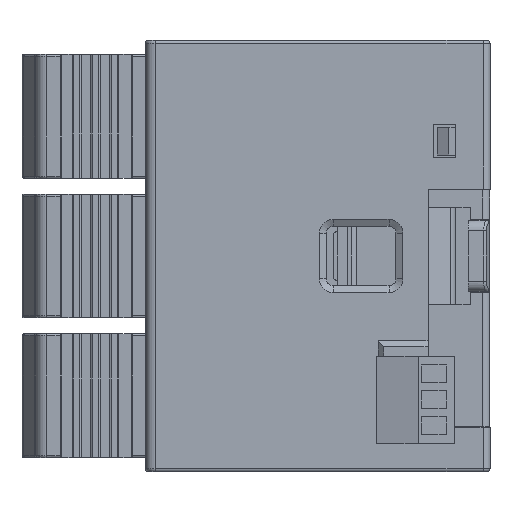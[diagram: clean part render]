
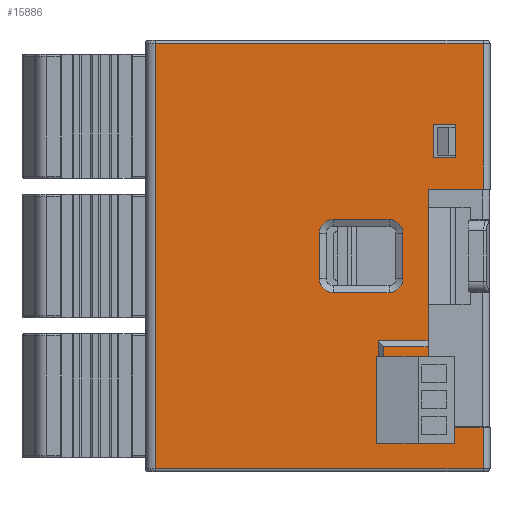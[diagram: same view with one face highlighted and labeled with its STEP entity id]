
A CAD part, left-side view. The second image highlights one B-rep face of the part: STEP entity #15886.
In plain terms, the highlighted planar face has unit normal (-1, 0, 0).
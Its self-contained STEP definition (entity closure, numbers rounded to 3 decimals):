
#1221=LINE('',#68059,#6215);
#1224=LINE('',#68066,#6218);
#1256=LINE('',#68131,#6250);
#1269=LINE('',#68157,#6263);
#1276=LINE('',#68172,#6270);
#1283=LINE('',#68185,#6277);
#1285=LINE('',#68188,#6279);
#1289=LINE('',#68195,#6283);
#1296=LINE('',#68214,#6290);
#1297=LINE('',#68217,#6291);
#1298=LINE('',#68219,#6292);
#1299=LINE('',#68221,#6293);
#1300=LINE('',#68223,#6294);
#1301=LINE('',#68225,#6295);
#1302=LINE('',#68227,#6296);
#1303=LINE('',#68229,#6297);
#1304=LINE('',#68231,#6298);
#1305=LINE('',#68233,#6299);
#1306=LINE('',#68235,#6300);
#1307=LINE('',#68237,#6301);
#1308=LINE('',#68238,#6302);
#1309=LINE('',#68240,#6303);
#1310=LINE('',#68242,#6304);
#1311=LINE('',#68244,#6305);
#1312=LINE('',#68245,#6306);
#1313=LINE('',#68250,#6307);
#1314=LINE('',#68254,#6308);
#1315=LINE('',#68258,#6309);
#1316=LINE('',#68261,#6310);
#1317=LINE('',#68264,#6311);
#1318=LINE('',#68266,#6312);
#1319=LINE('',#68268,#6313);
#6215=VECTOR('',#54348,1.);
#6218=VECTOR('',#54353,1.);
#6250=VECTOR('',#54397,1.);
#6263=VECTOR('',#54414,1.);
#6270=VECTOR('',#54425,1.);
#6277=VECTOR('',#54436,1.);
#6279=VECTOR('',#54440,1.);
#6283=VECTOR('',#54446,1.);
#6290=VECTOR('',#54461,1.);
#6291=VECTOR('',#54462,1.);
#6292=VECTOR('',#54463,1.);
#6293=VECTOR('',#54464,1.);
#6294=VECTOR('',#54465,1.);
#6295=VECTOR('',#54466,1.);
#6296=VECTOR('',#54467,1.);
#6297=VECTOR('',#54468,1.);
#6298=VECTOR('',#54469,1.);
#6299=VECTOR('',#54470,1.);
#6300=VECTOR('',#54471,1.);
#6301=VECTOR('',#54472,1.);
#6302=VECTOR('',#54473,1.);
#6303=VECTOR('',#54474,1.);
#6304=VECTOR('',#54475,1.);
#6305=VECTOR('',#54476,1.);
#6306=VECTOR('',#54477,1.);
#6307=VECTOR('',#54480,1.);
#6308=VECTOR('',#54483,1.);
#6309=VECTOR('',#54486,1.);
#6310=VECTOR('',#54489,1.);
#6311=VECTOR('',#54490,1.);
#6312=VECTOR('',#54491,1.);
#6313=VECTOR('',#54492,1.);
#10811=PLANE('',#48839);
#12796=FACE_OUTER_BOUND('',#19341,.T.);
#15886=ADVANCED_FACE('',(#12796,#18540,#18541),#10811,.F.);
#18540=FACE_BOUND('',#19342,.T.);
#18541=FACE_BOUND('',#19343,.T.);
#19341=EDGE_LOOP('',(#24270,#24271,#24272,#24273,#24274,#24275,#24276,#24277,
#24278,#24279,#24280,#24281,#24282,#24283,#24284,#24285,#24286,#24287,#24288,
#24289,#24290,#24291,#24292,#24293));
#19342=EDGE_LOOP('',(#24294,#24295,#24296,#24297,#24298,#24299,#24300,#24301));
#19343=EDGE_LOOP('',(#24302,#24303,#24304,#24305));
#24270=ORIENTED_EDGE('',*,*,#41141,.F.);
#24271=ORIENTED_EDGE('',*,*,#41142,.F.);
#24272=ORIENTED_EDGE('',*,*,#41143,.T.);
#24273=ORIENTED_EDGE('',*,*,#41144,.T.);
#24274=ORIENTED_EDGE('',*,*,#41145,.T.);
#24275=ORIENTED_EDGE('',*,*,#41146,.T.);
#24276=ORIENTED_EDGE('',*,*,#41147,.T.);
#24277=ORIENTED_EDGE('',*,*,#41148,.T.);
#24278=ORIENTED_EDGE('',*,*,#41149,.T.);
#24279=ORIENTED_EDGE('',*,*,#41150,.T.);
#24280=ORIENTED_EDGE('',*,*,#41151,.T.);
#24281=ORIENTED_EDGE('',*,*,#41152,.F.);
#24282=ORIENTED_EDGE('',*,*,#41118,.F.);
#24283=ORIENTED_EDGE('',*,*,#41125,.T.);
#24284=ORIENTED_EDGE('',*,*,#41111,.T.);
#24285=ORIENTED_EDGE('',*,*,#41127,.F.);
#24286=ORIENTED_EDGE('',*,*,#41063,.F.);
#24287=ORIENTED_EDGE('',*,*,#41066,.F.);
#24288=ORIENTED_EDGE('',*,*,#41131,.F.);
#24289=ORIENTED_EDGE('',*,*,#41098,.T.);
#24290=ORIENTED_EDGE('',*,*,#41153,.T.);
#24291=ORIENTED_EDGE('',*,*,#41154,.T.);
#24292=ORIENTED_EDGE('',*,*,#41155,.F.);
#24293=ORIENTED_EDGE('',*,*,#41156,.T.);
#24294=ORIENTED_EDGE('',*,*,#41157,.T.);
#24295=ORIENTED_EDGE('',*,*,#41158,.T.);
#24296=ORIENTED_EDGE('',*,*,#41159,.T.);
#24297=ORIENTED_EDGE('',*,*,#41160,.T.);
#24298=ORIENTED_EDGE('',*,*,#41161,.T.);
#24299=ORIENTED_EDGE('',*,*,#41162,.T.);
#24300=ORIENTED_EDGE('',*,*,#41163,.T.);
#24301=ORIENTED_EDGE('',*,*,#41164,.T.);
#24302=ORIENTED_EDGE('',*,*,#41165,.F.);
#24303=ORIENTED_EDGE('',*,*,#41166,.T.);
#24304=ORIENTED_EDGE('',*,*,#41167,.T.);
#24305=ORIENTED_EDGE('',*,*,#41168,.F.);
#36106=VERTEX_POINT('',#68058);
#36107=VERTEX_POINT('',#68060);
#36108=VERTEX_POINT('',#68064);
#36136=VERTEX_POINT('',#68130);
#36137=VERTEX_POINT('',#68132);
#36148=VERTEX_POINT('',#68158);
#36149=VERTEX_POINT('',#68159);
#36153=VERTEX_POINT('',#68169);
#36154=VERTEX_POINT('',#68173);
#36168=VERTEX_POINT('',#68215);
#36169=VERTEX_POINT('',#68216);
#36170=VERTEX_POINT('',#68218);
#36171=VERTEX_POINT('',#68220);
#36172=VERTEX_POINT('',#68222);
#36173=VERTEX_POINT('',#68224);
#36174=VERTEX_POINT('',#68226);
#36175=VERTEX_POINT('',#68228);
#36176=VERTEX_POINT('',#68230);
#36177=VERTEX_POINT('',#68232);
#36178=VERTEX_POINT('',#68234);
#36179=VERTEX_POINT('',#68236);
#36180=VERTEX_POINT('',#68239);
#36181=VERTEX_POINT('',#68241);
#36182=VERTEX_POINT('',#68243);
#36183=VERTEX_POINT('',#68246);
#36184=VERTEX_POINT('',#68247);
#36185=VERTEX_POINT('',#68249);
#36186=VERTEX_POINT('',#68251);
#36187=VERTEX_POINT('',#68253);
#36188=VERTEX_POINT('',#68255);
#36189=VERTEX_POINT('',#68257);
#36190=VERTEX_POINT('',#68259);
#36191=VERTEX_POINT('',#68262);
#36192=VERTEX_POINT('',#68263);
#36193=VERTEX_POINT('',#68265);
#36194=VERTEX_POINT('',#68267);
#41063=EDGE_CURVE('',#36106,#36107,#1221,.T.);
#41066=EDGE_CURVE('',#36108,#36106,#1224,.T.);
#41098=EDGE_CURVE('',#36137,#36136,#1256,.T.);
#41111=EDGE_CURVE('',#36148,#36149,#1269,.T.);
#41118=EDGE_CURVE('',#36154,#36153,#1276,.T.);
#41125=EDGE_CURVE('',#36154,#36148,#1283,.T.);
#41127=EDGE_CURVE('',#36107,#36149,#1285,.T.);
#41131=EDGE_CURVE('',#36137,#36108,#1289,.T.);
#41141=EDGE_CURVE('',#36168,#36169,#1296,.T.);
#41142=EDGE_CURVE('',#36170,#36168,#1297,.T.);
#41143=EDGE_CURVE('',#36170,#36171,#1298,.T.);
#41144=EDGE_CURVE('',#36171,#36172,#1299,.T.);
#41145=EDGE_CURVE('',#36172,#36173,#1300,.T.);
#41146=EDGE_CURVE('',#36173,#36174,#1301,.T.);
#41147=EDGE_CURVE('',#36174,#36175,#1302,.T.);
#41148=EDGE_CURVE('',#36175,#36176,#1303,.T.);
#41149=EDGE_CURVE('',#36176,#36177,#1304,.T.);
#41150=EDGE_CURVE('',#36177,#36178,#1305,.T.);
#41151=EDGE_CURVE('',#36178,#36179,#1306,.T.);
#41152=EDGE_CURVE('',#36153,#36179,#1307,.T.);
#41153=EDGE_CURVE('',#36136,#36180,#1308,.T.);
#41154=EDGE_CURVE('',#36180,#36181,#1309,.T.);
#41155=EDGE_CURVE('',#36182,#36181,#1310,.T.);
#41156=EDGE_CURVE('',#36182,#36169,#1311,.T.);
#41157=EDGE_CURVE('',#36183,#36184,#1312,.T.);
#41158=EDGE_CURVE('',#36184,#36185,#46971,.T.);
#41159=EDGE_CURVE('',#36185,#36186,#1313,.T.);
#41160=EDGE_CURVE('',#36186,#36187,#46972,.T.);
#41161=EDGE_CURVE('',#36187,#36188,#1314,.T.);
#41162=EDGE_CURVE('',#36188,#36189,#46973,.T.);
#41163=EDGE_CURVE('',#36189,#36190,#1315,.T.);
#41164=EDGE_CURVE('',#36190,#36183,#46974,.T.);
#41165=EDGE_CURVE('',#36191,#36192,#1316,.T.);
#41166=EDGE_CURVE('',#36191,#36193,#1317,.T.);
#41167=EDGE_CURVE('',#36193,#36194,#1318,.T.);
#41168=EDGE_CURVE('',#36192,#36194,#1319,.T.);
#46971=CIRCLE('',#48835,2.);
#46972=CIRCLE('',#48836,2.);
#46973=CIRCLE('',#48837,2.);
#46974=CIRCLE('',#48838,2.);
#48835=AXIS2_PLACEMENT_3D('',#68248,#54478,#54479);
#48836=AXIS2_PLACEMENT_3D('',#68252,#54481,#54482);
#48837=AXIS2_PLACEMENT_3D('',#68256,#54484,#54485);
#48838=AXIS2_PLACEMENT_3D('',#68260,#54487,#54488);
#48839=AXIS2_PLACEMENT_3D('',#68269,#54493,#54494);
#54348=DIRECTION('',(0.,0.,1.));
#54353=DIRECTION('',(0.,-1.,0.));
#54397=DIRECTION('',(0.,-1.,0.));
#54414=DIRECTION('',(0.,0.,-1.));
#54425=DIRECTION('',(0.,0.,1.));
#54436=DIRECTION('',(0.,1.,0.));
#54440=DIRECTION('',(0.,1.,0.));
#54446=DIRECTION('',(0.,0.,-1.));
#54461=DIRECTION('',(0.,0.,1.));
#54462=DIRECTION('',(0.,-1.,0.));
#54463=DIRECTION('',(0.,0.,1.));
#54464=DIRECTION('',(0.,-1.,0.));
#54465=DIRECTION('',(0.,0.,1.));
#54466=DIRECTION('',(0.,-1.,0.));
#54467=DIRECTION('',(0.,0.,1.));
#54468=DIRECTION('',(0.,1.,0.));
#54469=DIRECTION('',(0.,0.,-1.));
#54470=DIRECTION('',(0.,-1.,0.));
#54471=DIRECTION('',(0.,0.,1.));
#54472=DIRECTION('',(0.,-1.,0.));
#54473=DIRECTION('',(0.,0.,1.));
#54474=DIRECTION('',(0.,1.,0.));
#54475=DIRECTION('',(0.,0.,1.));
#54476=DIRECTION('',(0.,1.,0.));
#54477=DIRECTION('',(0.,1.,0.));
#54478=DIRECTION('',(1.,0.,0.));
#54479=DIRECTION('',(0.,0.,1.));
#54480=DIRECTION('',(0.,0.,1.));
#54481=DIRECTION('',(1.,0.,0.));
#54482=DIRECTION('',(0.,0.,1.));
#54483=DIRECTION('',(0.,-1.,0.));
#54484=DIRECTION('',(1.,0.,0.));
#54485=DIRECTION('',(0.,0.,1.));
#54486=DIRECTION('',(0.,0.,-1.));
#54487=DIRECTION('',(1.,0.,0.));
#54488=DIRECTION('',(0.,0.,1.));
#54489=DIRECTION('',(0.,-1.,0.));
#54490=DIRECTION('',(0.,0.,1.));
#54491=DIRECTION('',(0.,-1.,0.));
#54492=DIRECTION('',(0.,0.,1.));
#54493=DIRECTION('',(1.,0.,0.));
#54494=DIRECTION('',(0.,0.,-1.));
#68058=CARTESIAN_POINT('',(0.,6.1,4.));
#68059=CARTESIAN_POINT('',(0.,6.1,0.6));
#68060=CARTESIAN_POINT('',(0.,6.1,4.6));
#68064=CARTESIAN_POINT('',(0.,14.5,4.));
#68066=CARTESIAN_POINT('',(0.,10.7,4.));
#68130=CARTESIAN_POINT('',(0.,8.9,16.55));
#68131=CARTESIAN_POINT('',(0.,10.7,16.55));
#68132=CARTESIAN_POINT('',(0.,14.5,16.55));
#68157=CARTESIAN_POINT('',(0.,8.6,0.6));
#68158=CARTESIAN_POINT('',(0.,8.6,5.6));
#68159=CARTESIAN_POINT('',(0.,8.6,4.6));
#68169=CARTESIAN_POINT('',(0.,6.1,6.35));
#68172=CARTESIAN_POINT('',(0.,6.1,0.6));
#68173=CARTESIAN_POINT('',(0.,6.1,5.6));
#68185=CARTESIAN_POINT('',(0.,6.1,5.6));
#68188=CARTESIAN_POINT('',(0.,6.1,4.6));
#68195=CARTESIAN_POINT('',(0.,14.5,12.6));
#68214=CARTESIAN_POINT('',(0.,15.6,4.05));
#68215=CARTESIAN_POINT('',(0.,15.6,6.35));
#68216=CARTESIAN_POINT('',(0.,15.6,16.55));
#68217=CARTESIAN_POINT('',(0.,24.75,6.35));
#68218=CARTESIAN_POINT('',(0.,16.05,6.35));
#68219=CARTESIAN_POINT('',(0.,16.05,15.85));
#68220=CARTESIAN_POINT('',(0.,16.05,18.75));
#68221=CARTESIAN_POINT('',(0.,0.,18.75));
#68222=CARTESIAN_POINT('',(0.,8.9,18.75));
#68223=CARTESIAN_POINT('',(0.,8.9,24.));
#68224=CARTESIAN_POINT('',(0.,8.9,40.55));
#68225=CARTESIAN_POINT('',(0.,7.849,40.55));
#68226=CARTESIAN_POINT('',(0.,1.,40.55));
#68227=CARTESIAN_POINT('',(0.,1.,0.));
#68228=CARTESIAN_POINT('',(0.,1.,61.5));
#68229=CARTESIAN_POINT('',(0.,48.,61.5));
#68230=CARTESIAN_POINT('',(0.,48.,61.5));
#68231=CARTESIAN_POINT('',(0.,48.,0.));
#68232=CARTESIAN_POINT('',(0.,48.,0.4));
#68233=CARTESIAN_POINT('',(0.,24.75,0.4));
#68234=CARTESIAN_POINT('',(0.,1.,0.4));
#68235=CARTESIAN_POINT('',(0.,1.,0.));
#68236=CARTESIAN_POINT('',(0.,1.,6.35));
#68237=CARTESIAN_POINT('',(0.,24.75,6.35));
#68238=CARTESIAN_POINT('',(0.,8.9,5.95));
#68239=CARTESIAN_POINT('',(0.,8.9,17.95));
#68240=CARTESIAN_POINT('',(0.,8.7,17.95));
#68241=CARTESIAN_POINT('',(0.,15.25,17.95));
#68242=CARTESIAN_POINT('',(0.,15.25,5.95));
#68243=CARTESIAN_POINT('',(0.,15.25,16.55));
#68244=CARTESIAN_POINT('',(0.,14.5,16.55));
#68245=CARTESIAN_POINT('',(0.,22.5,25.7));
#68246=CARTESIAN_POINT('',(0.,14.5,25.7));
#68247=CARTESIAN_POINT('',(0.,22.5,25.7));
#68248=CARTESIAN_POINT('',(0.,22.5,27.7));
#68249=CARTESIAN_POINT('',(0.,24.5,27.7));
#68250=CARTESIAN_POINT('',(0.,24.5,34.2));
#68251=CARTESIAN_POINT('',(0.,24.5,34.2));
#68252=CARTESIAN_POINT('',(0.,22.5,34.2));
#68253=CARTESIAN_POINT('',(0.,22.5,36.2));
#68254=CARTESIAN_POINT('',(0.,14.5,36.2));
#68255=CARTESIAN_POINT('',(0.,14.5,36.2));
#68256=CARTESIAN_POINT('',(0.,14.5,34.2));
#68257=CARTESIAN_POINT('',(0.,12.5,34.2));
#68258=CARTESIAN_POINT('',(0.,12.5,27.7));
#68259=CARTESIAN_POINT('',(0.,12.5,27.7));
#68260=CARTESIAN_POINT('',(0.,14.5,27.7));
#68261=CARTESIAN_POINT('',(0.,24.75,45.05));
#68262=CARTESIAN_POINT('',(0.,8.1,45.05));
#68263=CARTESIAN_POINT('',(0.,4.9,45.05));
#68264=CARTESIAN_POINT('',(0.,8.1,46.95));
#68265=CARTESIAN_POINT('',(0.,8.1,49.85));
#68266=CARTESIAN_POINT('',(0.,6.9,49.85));
#68267=CARTESIAN_POINT('',(0.,4.9,49.85));
#68268=CARTESIAN_POINT('',(0.,4.9,0.));
#68269=CARTESIAN_POINT('',(0.,14.5,12.6));
